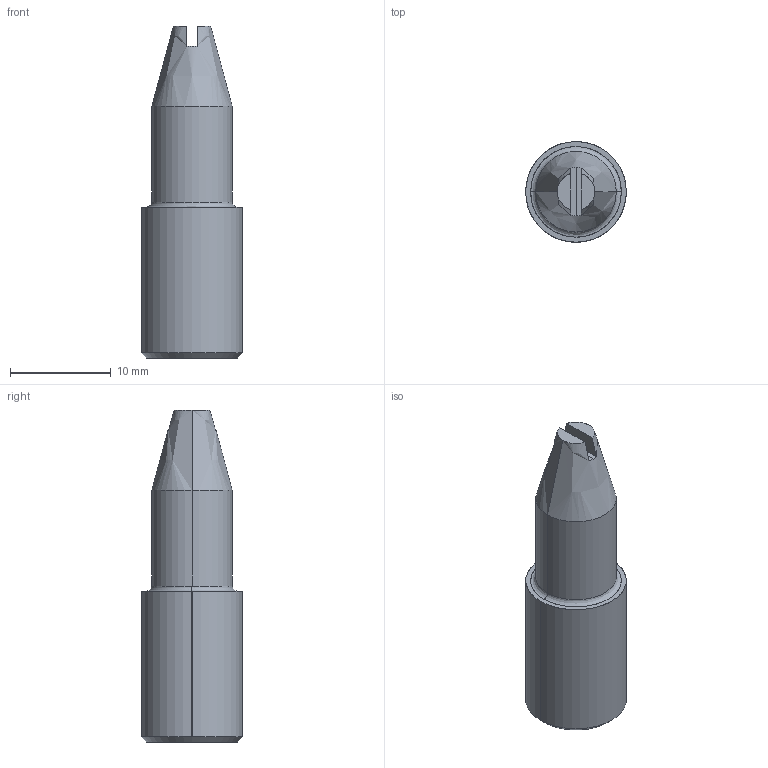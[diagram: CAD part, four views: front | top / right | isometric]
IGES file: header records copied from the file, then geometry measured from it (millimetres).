
Global section: file name: E:\UnigraphicsGraphicData\MISUMI_PRESS-PARTS\IGES\3d_sdst10_03097_r00.igs; native system: NX V5.0; preprocessor: UGS NX IGES V5.0; author: MISUMI; date: 20110105.162516; units: millimetre
Bounding box: 10 x 10 x 33 mm (x, y, z)
Surface area: 1217.6 mm2 (no closed solid volume)
Topology: 0 solids, 0 shells, 21 faces, 124 edges, 124 vertices
Faces by surface type: bspline 21
